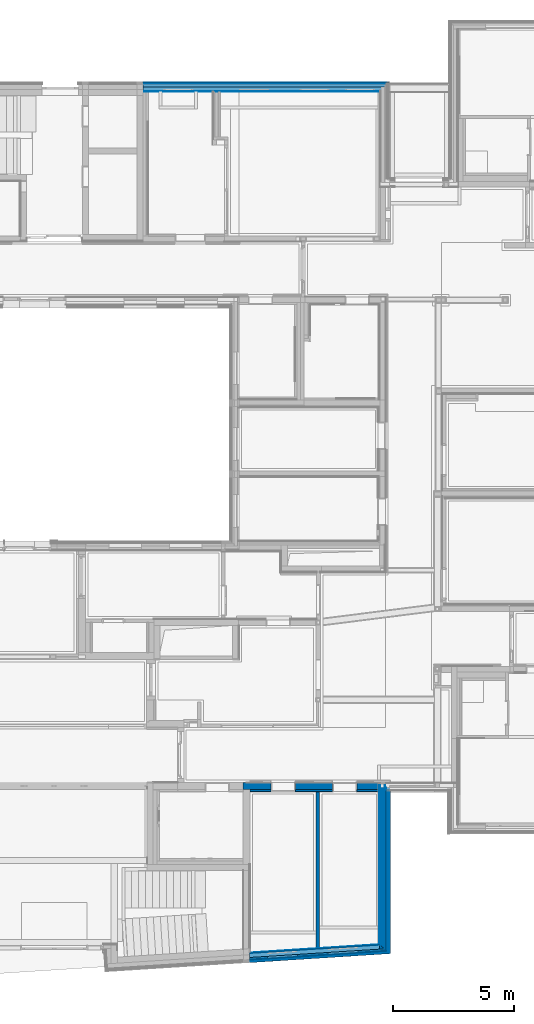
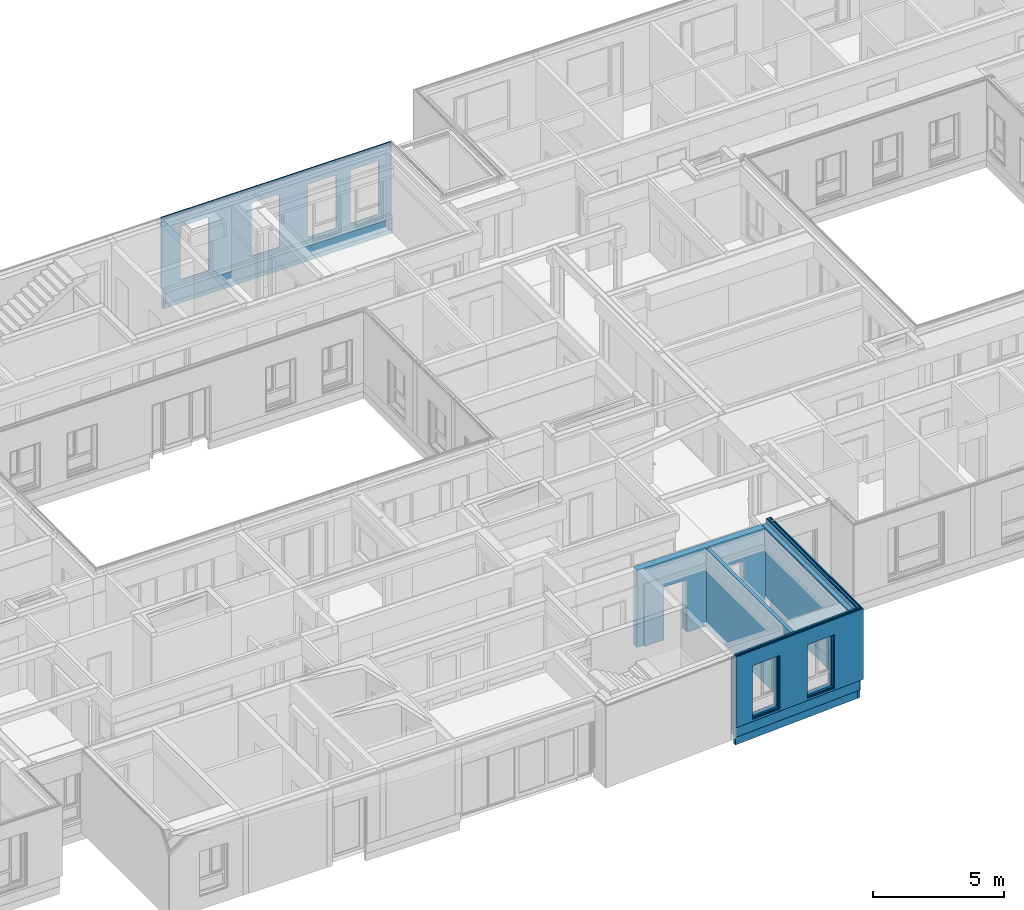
# One storey, part 42 of 207: 31 walls, 26 openings.
"""IFC4 building model written with IfcOpenShell, lengths in metres."""

from ifc_helpers import new_model, entity, si_unit, converted_unit, derived_unit, frame, frame_2d, origin, origin_with_axes, place, context, subcontext, project, spatial, polyline, rectangle, outline, extrude, clip, bounded_halfspace, material, element, save


model = new_model("IFC4")

# Units and contexts
model_context = context("Model", 3, precision=1e-05, world=origin())
body_context = subcontext(model_context, "Body", "Model", "MODEL_VIEW")
ifc_project = project(units=[si_unit("LENGTHUNIT", "METRE"), si_unit("AREAUNIT", "SQUARE_METRE"), si_unit("VOLUMEUNIT", "CUBIC_METRE"), si_unit("MASSUNIT", "GRAM", prefix="KILO"), converted_unit("PLANEANGLEUNIT", "DEGREE", entity("IfcPlaneAngleMeasure", 0.0174532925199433), si_unit("PLANEANGLEUNIT", "RADIAN"), dimensions=[0, 0, 0, 0, 0, 0, 0]), derived_unit("THERMALTRANSMITTANCEUNIT", [(si_unit("POWERUNIT", "WATT"), 1), (si_unit("THERMODYNAMICTEMPERATUREUNIT", "KELVIN"), -1), (si_unit("LENGTHUNIT", "METRE"), -2)]), derived_unit("VOLUMETRICFLOWRATEUNIT", [(si_unit("LENGTHUNIT", "METRE"), 3), (converted_unit("TIMEUNIT", "hour", entity("IfcTimeMeasure", 3600.0), si_unit("TIMEUNIT", "SECOND"), dimensions=[0, 0, 1, 0, 0, 0, 0]), -1), (si_unit("LENGTHUNIT", "METRE"), -1)])], contexts=[model_context])

# Site, building, storey
site_placement = place(None, origin())
site = spatial("IfcSite", under=ifc_project, at=site_placement, Name="Psychiatrie Neubau Wunstorf", CompositionType="ELEMENT")
building_placement = place(site_placement, origin())
building = spatial("IfcBuilding", under=site, at=building_placement, Name="Neubau H2 Stationsgebäude", CompositionType="ELEMENT")
storey_placement = place(building_placement, frame((0.0, 0.0, -0.2)))
storey = spatial("IfcBuildingStorey", under=building, at=storey_placement, Name="H2 Ebene 0", CompositionType="ELEMENT", Elevation=-0.2)

# Wall, openings
ifc_material_1 = material(Name="WA-LB")
wall_1_placement = place(storey_placement, frame((67.8525, -6.14011590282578, 0.5), z_axis=(0.0, 0.0, 1.0), x_axis=(-0.99794432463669, -0.0640868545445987, 0.0)))
wall_1 = element("IfcWall", 1, at=wall_1_placement, inside=storey, material=ifc_material_1, context=body_context, shape_type="SweptSolid", body=[
    extrude(outline(polyline([(-5.36582681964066, -0.0359999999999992), (-0.00231187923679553, -0.0359999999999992), (0.0, 0.0), (-5.40497329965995, 0.0), (-5.36582681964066, -0.0359999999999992)])), frame((5.36582681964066, 0.0359999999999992, 0.0), z_axis=(0.0, 0.0, 1.0), x_axis=(1.0, 0.0, 0.0)), (0.0, 0.0, 1.0), 3.1),
])
opening_1_placement = place(wall_1_placement, frame((4.64269776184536, 0.035999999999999, 0.1), z_axis=(-2.52637417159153e-14, -1.0, 0.0), x_axis=(0.0, 0.0, 1.0)))
element("IfcOpeningElement", 2, at=opening_1_placement, cuts=wall_1, Name="Fensteröffnung", ObjectType="Opening", context=body_context, shape_type="SweptSolid", body=[
    extrude(outline(polyline([(2.5, 1.24999999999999), (2.5, 0.0), (0.0, 0.0), (0.0, 1.24999999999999), (2.5, 1.24999999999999)])), origin_with_axes(), (0.0, 0.0, 1.0), 0.0359999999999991),
])
opening_2_placement = place(wall_1_placement, frame((2.1362370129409, 0.0360000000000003, 0.1), z_axis=(1.64214321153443e-13, -1.0, 0.0), x_axis=(0.0, 0.0, 1.0)))
element("IfcOpeningElement", 3, at=opening_2_placement, cuts=wall_1, Name="Fensteröffnung", ObjectType="Opening", context=body_context, shape_type="SweptSolid", body=[
    extrude(outline(polyline([(2.5, 1.24999999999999), (2.5, 0.0), (0.0, 0.0), (0.0, 1.24999999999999), (2.5, 1.24999999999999)])), origin_with_axes(), (0.0, 0.0, 1.0), 0.0360000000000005),
])

ifc_material_2 = material(Name="WA-HD")
wall_2_placement = place(storey_placement, frame((67.8938731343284, -6.17353312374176, 0.5), z_axis=(0.0, 0.0, 1.0), x_axis=(-0.99794432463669, -0.0640868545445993, 0.0)))
wall_2 = element("IfcWall", 4, at=wall_2_placement, inside=storey, material=ifc_material_2, context=body_context, shape_type="SweptSolid", body=[
    extrude(outline(polyline([(-5.41524831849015, -0.159999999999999), (-0.0102750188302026, -0.159999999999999), (0.0, 0.0), (-5.58923267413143, 0.0), (-5.41524831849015, -0.159999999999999)])), frame((5.41524831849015, 0.159999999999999, 0.0), z_axis=(0.0, 0.0, 1.0), x_axis=(1.0, 0.0, 0.0)), (0.0, 0.0, 1.0), 3.1),
])
opening_3_placement = place(wall_2_placement, frame((4.68184424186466, 0.159999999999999, 0.1), z_axis=(2.84217094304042e-14, -1.0, 0.0), x_axis=(0.0, 0.0, 1.0)))
element("IfcOpeningElement", 5, at=opening_3_placement, cuts=wall_2, Name="Fensteröffnung", ObjectType="Opening", context=body_context, shape_type="SweptSolid", body=[
    extrude(outline(polyline([(2.5, 1.25000000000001), (2.5, 0.0), (0.0, 0.0), (0.0, 1.25000000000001), (2.5, 1.25000000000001)])), origin_with_axes(), (0.0, 0.0, 1.0), 0.159999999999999),
])
opening_4_placement = place(wall_2_placement, frame((2.1753834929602, 0.159999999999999, 0.1), z_axis=(2.27373675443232e-14, -1.0, 0.0), x_axis=(0.0, 0.0, 1.0)))
element("IfcOpeningElement", 6, at=opening_4_placement, cuts=wall_2, Name="Fensteröffnung", ObjectType="Opening", context=body_context, shape_type="SweptSolid", body=[
    extrude(outline(polyline([(2.5, 1.25000000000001), (2.5, 0.0), (0.0, 0.0), (0.0, 1.25000000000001), (2.5, 1.25000000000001)])), origin_with_axes(), (0.0, 0.0, 1.0), 0.16),
])

ifc_material_3 = material(Name="WA-DL")
wall_3_placement = place(storey_placement, frame((68.0777537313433, -6.32205410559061, 0.5), z_axis=(0.0, 0.0, 1.0), x_axis=(-0.99794432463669, -0.0640868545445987, 0.0)))
wall_3 = element("IfcWall", 7, at=wall_3_placement, inside=storey, material=ifc_material_3, context=body_context, shape_type="SweptSolid", body=[
    extrude(outline(polyline([(-5.59437018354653, -0.0799999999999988), (-0.00513750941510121, -0.0799999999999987), (0.0, 0.0), (-5.68136236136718, 0.0), (-5.59437018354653, -0.0799999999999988)])), frame((5.59437018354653, 0.0799999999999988, 0.0), z_axis=(0.0, 0.0, 1.0), x_axis=(1.0, 0.0, 0.0)), (0.0, 0.0, 1.0), 3.3),
])
opening_5_placement = place(wall_3_placement, frame((4.85582859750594, 0.0799999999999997, 0.1), z_axis=(2.27373675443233e-14, -1.0, 0.0), x_axis=(0.0, 0.0, 1.0)))
element("IfcOpeningElement", 8, at=opening_5_placement, cuts=wall_3, Name="Fensteröffnung", ObjectType="Opening", context=body_context, shape_type="SweptSolid", body=[
    extrude(outline(polyline([(2.5, 1.25000000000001), (2.5, 0.0), (0.0, 0.0), (0.0, 1.25000000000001), (2.5, 1.25000000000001)])), origin_with_axes(), (0.0, 0.0, 1.0), 0.0799999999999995),
])
opening_6_placement = place(wall_3_placement, frame((2.34936784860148, 0.0800000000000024, 0.1), z_axis=(1.70530256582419e-14, -1.0, 0.0), x_axis=(0.0, 0.0, 1.0)))
element("IfcOpeningElement", 9, at=opening_6_placement, cuts=wall_3, Name="Fensteröffnung", ObjectType="Opening", context=body_context, shape_type="SweptSolid", body=[
    extrude(outline(polyline([(2.5, 1.25000000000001), (2.5, 0.0), (0.0, 0.0), (0.0, 1.25000000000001), (2.5, 1.25000000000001)])), origin_with_axes(), (0.0, 0.0, 1.0), 0.0800000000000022),
])

ifc_material_4 = material(Name="WA-TP")
wall_4_placement = place(storey_placement, frame((68.1696940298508, -6.39631459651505, 0.5), z_axis=(0.0, 0.0, 1.0), x_axis=(-0.99794432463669, -0.0640868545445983, 0.0)))
wall_4 = element("IfcWall", 10, at=wall_4_placement, inside=storey, material=ifc_material_4, context=body_context, shape_type="SweptSolid", body=[
    extrude(outline(polyline([(-5.68367424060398, -0.036000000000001), (-0.00231187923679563, -0.036000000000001), (0.0, 0.0), (-5.72282072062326, 0.0), (-5.68367424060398, -0.036000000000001)])), frame((5.68367424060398, 0.036000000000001, 0.0), z_axis=(0.0, 0.0, 1.0), x_axis=(1.0, 0.0, 0.0)), (0.0, 0.0, 1.0), 3.3),
])
opening_7_placement = place(wall_4_placement, frame((4.94282077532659, 0.0360000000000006, 0.1), z_axis=(-5.0527483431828e-14, -1.0, 0.0), x_axis=(0.0, 0.0, 1.0)))
element("IfcOpeningElement", 11, at=opening_7_placement, cuts=wall_4, Name="Fensteröffnung", ObjectType="Opening", context=body_context, shape_type="SweptSolid", body=[
    extrude(outline(polyline([(2.5, 1.25000000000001), (2.5, 0.0), (0.0, 0.0), (0.0, 1.25000000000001), (2.5, 1.25000000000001)])), origin_with_axes(), (0.0, 0.0, 1.0), 0.0360000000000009),
])
opening_8_placement = place(wall_4_placement, frame((2.43636002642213, 0.0359999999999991, 0.1), z_axis=(1.76846192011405e-13, -1.0, 0.0), x_axis=(0.0, 0.0, 1.0)))
element("IfcOpeningElement", 12, at=opening_8_placement, cuts=wall_4, Name="Fensteröffnung", ObjectType="Opening", context=body_context, shape_type="SweptSolid", body=[
    extrude(outline(polyline([(2.5, 1.25000000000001), (2.5, 0.0), (0.0, 0.0), (0.0, 1.25000000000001), (2.5, 1.25000000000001)])), origin_with_axes(), (0.0, 0.0, 1.0), 0.0359999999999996),
])

ifc_material_5 = material(Name="WA-KL")
wall_5_placement = place(storey_placement, frame((68.2110671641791, -6.42973181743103, 0.5), z_axis=(0.0, 0.0, 1.0), x_axis=(-0.99794432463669, -0.0640868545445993, 0.0)))
wall_5 = element("IfcWall", 13, at=wall_5_placement, inside=storey, material=ifc_material_5, context=body_context, shape_type="SweptSolid", body=[
    extrude(outline(polyline([(-5.7243619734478, -0.0239999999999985), (-0.00154125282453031, -0.0239999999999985), (0.0, 0.0), (-5.75045962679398, 0.0), (-5.7243619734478, -0.0239999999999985)])), frame((5.7243619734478, 0.0239999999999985, 0.0), z_axis=(0.0, 0.0, 1.0), x_axis=(1.0, 0.0, 0.0)), (0.0, 0.0, 1.0), 3.3),
])
opening_9_placement = place(wall_5_placement, frame((4.98196725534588, 0.0239999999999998, 0.1), z_axis=(-3.7895612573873e-14, -1.0, 0.0), x_axis=(0.0, 0.0, 1.0)))
element("IfcOpeningElement", 14, at=opening_9_placement, cuts=wall_5, Name="Fensteröffnung", ObjectType="Opening", context=body_context, shape_type="SweptSolid", body=[
    extrude(outline(polyline([(2.5, 1.25), (2.5, 0.0), (0.0, 0.0), (0.0, 1.25), (2.5, 1.25)])), origin_with_axes(), (0.0, 0.0, 1.0), 0.0239999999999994),
])
opening_10_placement = place(wall_5_placement, frame((2.47550650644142, 0.0240000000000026, 0.1), z_axis=(-7.57912251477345e-14, -1.0, 0.0), x_axis=(0.0, 0.0, 1.0)))
element("IfcOpeningElement", 15, at=opening_10_placement, cuts=wall_5, Name="Fensteröffnung", ObjectType="Opening", context=body_context, shape_type="SweptSolid", body=[
    extrude(outline(polyline([(2.5, 1.25000000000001), (2.5, 0.0), (0.0, 0.0), (0.0, 1.25000000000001), (2.5, 1.25000000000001)])), origin_with_axes(), (0.0, 0.0, 1.0), 0.024000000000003),
])

ifc_material_6 = material(Name="WA-TL")
wall_6_placement = place(storey_placement, frame((68.2386492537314, -6.45200996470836, 0.5), z_axis=(0.0, 0.0, 1.0), x_axis=(-0.99794432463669, -0.0640868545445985, 0.0)))
wall_6 = element("IfcWall", 16, at=wall_6_placement, inside=storey, material=ifc_material_6, context=body_context, shape_type="SweptSolid", body=[
    extrude(outline(polyline([(-5.75200087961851, -0.0239999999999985), (-0.00154125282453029, -0.0239999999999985), (0.0, 0.0), (-5.7780985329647, 0.0), (-5.75200087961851, -0.0239999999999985)])), frame((5.75200087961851, 0.0239999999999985, 0.0), z_axis=(0.0, 0.0, 1.0), x_axis=(1.0, 0.0, 0.0)), (0.0, 0.0, 1.0), 3.3),
])
opening_11_placement = place(wall_6_placement, frame((5.00806490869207, 0.0239999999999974, 0.1), z_axis=(0.0, -1.0, 0.0), x_axis=(0.0, 0.0, 1.0)))
element("IfcOpeningElement", 17, at=opening_11_placement, cuts=wall_6, Name="Fensteröffnung", ObjectType="Opening", context=body_context, shape_type="SweptSolid", body=[
    extrude(outline(polyline([(2.5, 1.25), (2.5, 0.0), (0.0, 0.0), (0.0, 1.25), (2.5, 1.25)])), origin_with_axes(), (0.0, 0.0, 1.0), 0.0239999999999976),
])
opening_12_placement = place(wall_6_placement, frame((2.5016041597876, 0.0239999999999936, 0.1), z_axis=(-1.89478062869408e-14, -1.0, 0.0), x_axis=(0.0, 0.0, 1.0)))
element("IfcOpeningElement", 18, at=opening_12_placement, cuts=wall_6, Name="Fensteröffnung", ObjectType="Opening", context=body_context, shape_type="SweptSolid", body=[
    extrude(outline(polyline([(2.5, 1.24999999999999), (2.5, 0.0), (0.0, 0.0), (0.0, 1.24999999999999), (2.5, 1.24999999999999)])), origin_with_axes(), (0.0, 0.0, 1.0), 0.023999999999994),
])

ifc_material_7 = material(Name="WA-HS")
wall_7_placement = place(storey_placement, frame((68.2662313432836, -6.47428811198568, 0.5), z_axis=(0.0, 0.0, 1.0), x_axis=(-0.99794432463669, -0.0640868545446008, 0.0)))
wall_7 = element("IfcWall", 19, at=wall_7_placement, inside=storey, material=ifc_material_7, context=body_context, shape_type="SweptSolid", body=[
    extrude(outline(polyline([(-5.78079572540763, -0.0419999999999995), (-0.00269719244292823, -0.0419999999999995), (0.0, 0.0), (-5.82646661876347, 0.0), (-5.78079572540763, -0.0419999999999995)])), frame((5.78079572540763, 0.0419999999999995, 0.0), z_axis=(0.0, 0.0, 1.0), x_axis=(1.0, 0.0, 0.0)), (0.0, 0.0, 1.0), 3.3),
])
opening_13_placement = place(wall_7_placement, frame((5.03416256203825, 0.0420000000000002, 0.1), z_axis=(4.3309271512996e-14, -1.0, 0.0), x_axis=(0.0, 0.0, 1.0)))
element("IfcOpeningElement", 20, at=opening_13_placement, cuts=wall_7, Name="Fensteröffnung", ObjectType="Opening", context=body_context, shape_type="SweptSolid", body=[
    extrude(outline(polyline([(2.5, 1.25000000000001), (2.5, 0.0), (0.0, 0.0), (0.0, 1.25000000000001), (2.5, 1.25000000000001)])), origin_with_axes(), (0.0, 0.0, 1.0), 0.0420000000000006),
])
opening_14_placement = place(wall_7_placement, frame((2.5277018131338, 0.0420000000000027, 0.1), z_axis=(-1.29927814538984e-13, -1.0, 0.0), x_axis=(0.0, 0.0, 1.0)))
element("IfcOpeningElement", 21, at=opening_14_placement, cuts=wall_7, Name="Fensteröffnung", ObjectType="Opening", context=body_context, shape_type="SweptSolid", body=[
    extrude(outline(polyline([(2.5, 1.25000000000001), (2.5, 0.0), (0.0, 0.0), (0.0, 1.25000000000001), (2.5, 1.25000000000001)])), origin_with_axes(), (0.0, 0.0, 1.0), 0.0420000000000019),
])

ifc_material_8 = material(Name="WA-TL")
wall_8_placement = place(storey_placement, frame((58.1, 29.3999996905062, 0.5)))
wall_8 = element("IfcWall", 22, at=wall_8_placement, inside=storey, material=ifc_material_8, context=body_context, shape_type="SweptSolid", body=[
    extrude(rectangle(XDim=10.125, YDim=0.024, at=frame_2d((5.0625, 0.012), x_axis=(1.0, 0.0))), origin_with_axes(), (0.0, 0.0, 1.0), 3.3),
])
opening_15_placement = place(wall_8_placement, frame((9.58750000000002, 0.024, 0.1), z_axis=(0.0, -1.0, 0.0), x_axis=(0.0, 0.0, 1.0)))
element("IfcOpeningElement", 23, at=opening_15_placement, cuts=wall_8, Name="Fensteröffnung", ObjectType="Opening", context=body_context, shape_type="SweptSolid", body=[
    extrude(outline(polyline([(2.5, 1.25), (2.5, 0.0), (0.0, 0.0), (0.0, 1.25), (2.5, 1.25)])), origin_with_axes(), (0.0, 0.0, 1.0), 0.024),
])
opening_16_placement = place(wall_8_placement, frame((5.21250000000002, 0.024, 0.1), z_axis=(0.0, -1.0, 0.0), x_axis=(0.0, 0.0, 1.0)))
element("IfcOpeningElement", 24, at=opening_16_placement, cuts=wall_8, Name="Fensteröffnung", ObjectType="Opening", context=body_context, shape_type="SweptSolid", body=[
    extrude(outline(polyline([(2.5, 1.25), (2.5, 0.0), (0.0, 0.0), (0.0, 1.25), (2.5, 1.25)])), origin_with_axes(), (0.0, 0.0, 1.0), 0.024),
])
opening_17_placement = place(wall_8_placement, frame((2.08750000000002, 0.024, 0.1), z_axis=(0.0, -1.0, 0.0), x_axis=(0.0, 0.0, 1.0)))
element("IfcOpeningElement", 25, at=opening_17_placement, cuts=wall_8, Name="Fensteröffnung", ObjectType="Opening", context=body_context, shape_type="SweptSolid", body=[
    extrude(outline(polyline([(2.5, 1.25), (2.5, 0.0), (0.0, 0.0), (0.0, 1.25), (2.5, 1.25)])), origin_with_axes(), (0.0, 0.0, 1.0), 0.024),
])
opening_18_placement = place(wall_8_placement, frame((7.71250000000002, 0.024, 0.1), z_axis=(0.0, -1.0, 0.0), x_axis=(0.0, 0.0, 1.0)))
element("IfcOpeningElement", 26, at=opening_18_placement, cuts=wall_8, Name="Fensteröffnung", ObjectType="Opening", context=body_context, shape_type="SweptSolid", body=[
    extrude(outline(polyline([(2.5, 1.25), (2.5, 0.0), (0.0, 0.0), (0.0, 1.25), (2.5, 1.25)])), origin_with_axes(), (0.0, 0.0, 1.0), 0.024),
])

ifc_material_9 = material(Name="WA-HS")
wall_9_placement = place(storey_placement, frame((58.1, 29.4239996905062, 0.5)))
wall_9 = element("IfcWall", 27, at=wall_9_placement, inside=storey, material=ifc_material_9, context=body_context, shape_type="SweptSolid", body=[
    extrude(rectangle(XDim=10.149, YDim=0.042, at=frame_2d((5.0745, 0.021), x_axis=(1.0, 0.0))), origin_with_axes(), (0.0, 0.0, 1.0), 3.3),
])
opening_19_placement = place(wall_9_placement, frame((9.58750000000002, 0.042, 0.1), z_axis=(0.0, -1.0, 0.0), x_axis=(0.0, 0.0, 1.0)))
element("IfcOpeningElement", 28, at=opening_19_placement, cuts=wall_9, Name="Fensteröffnung", ObjectType="Opening", context=body_context, shape_type="SweptSolid", body=[
    extrude(outline(polyline([(2.5, 1.25), (2.5, 0.0), (0.0, 0.0), (0.0, 1.25), (2.5, 1.25)])), origin_with_axes(), (0.0, 0.0, 1.0), 0.042),
])
opening_20_placement = place(wall_9_placement, frame((2.08750000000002, 0.042, 0.1), z_axis=(0.0, -1.0, 0.0), x_axis=(0.0, 0.0, 1.0)))
element("IfcOpeningElement", 29, at=opening_20_placement, cuts=wall_9, Name="Fensteröffnung", ObjectType="Opening", context=body_context, shape_type="SweptSolid", body=[
    extrude(outline(polyline([(2.5, 1.25), (2.5, 0.0), (0.0, 0.0), (0.0, 1.25), (2.5, 1.25)])), origin_with_axes(), (0.0, 0.0, 1.0), 0.042),
])
opening_21_placement = place(wall_9_placement, frame((5.21250000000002, 0.042, 0.1), z_axis=(0.0, -1.0, 0.0), x_axis=(0.0, 0.0, 1.0)))
element("IfcOpeningElement", 30, at=opening_21_placement, cuts=wall_9, Name="Fensteröffnung", ObjectType="Opening", context=body_context, shape_type="SweptSolid", body=[
    extrude(outline(polyline([(2.5, 1.25), (2.5, 0.0), (0.0, 0.0), (0.0, 1.25), (2.5, 1.25)])), origin_with_axes(), (0.0, 0.0, 1.0), 0.042),
])
opening_22_placement = place(wall_9_placement, frame((7.71250000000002, 0.042, 0.1), z_axis=(0.0, -1.0, 0.0), x_axis=(0.0, 0.0, 1.0)))
element("IfcOpeningElement", 31, at=opening_22_placement, cuts=wall_9, Name="Fensteröffnung", ObjectType="Opening", context=body_context, shape_type="SweptSolid", body=[
    extrude(outline(polyline([(2.5, 1.25), (2.5, 0.0), (0.0, 0.0), (0.0, 1.25), (2.5, 1.25)])), origin_with_axes(), (0.0, 0.0, 1.0), 0.042),
])

# Walls
ifc_material_10 = material(Name="WA-LB")
wall_10_placement = place(storey_placement, frame((67.8525, 0.536002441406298, 0.5), z_axis=(0.0, 0.0, 1.0), x_axis=(0.0, -1.0, 0.0)))
element("IfcWall", 32, at=wall_10_placement, inside=storey, material=ifc_material_10, context=body_context, shape_type="SweptSolid", body=[
    extrude(outline(polyline([(-6.70519566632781, 0.0), (-0.0290773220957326, 0.0), (0.0, 0.036), (-6.70519566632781, 0.036), (-6.70519566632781, 0.0)])), frame((6.70519566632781, 0.0, 0.0), z_axis=(0.0, 0.0, 1.0), x_axis=(1.0, 0.0, 0.0)), (0.0, 0.0, 1.0), 3.1),
])
ifc_material_11 = material(Name="WA-LB")
wall_11_placement = place(storey_placement, frame((67.8885, 0.500002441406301, 0.5), z_axis=(0.0, 0.0, 1.0), x_axis=(0.0, -1.0, 0.0)))
element("IfcWall", 33, at=wall_11_placement, inside=storey, material=ifc_material_11, context=body_context, shape_type="SweptSolid", body=[
    extrude(outline(polyline([(-6.68454203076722, 0.0), (-0.0153463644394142, 0.0), (0.0, 0.019), (-6.68454203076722, 0.019), (-6.68454203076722, 0.0)])), frame((6.68454203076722, 0.0, 0.0), z_axis=(0.0, 0.0, 1.0), x_axis=(1.0, 0.0, 0.0)), (0.0, 0.0, 1.0), 3.1),
])
ifc_material_12 = material(Name="WA-HD")
wall_12_placement = place(storey_placement, frame((67.9075, 0.500002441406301, 0.5), z_axis=(0.0, 0.0, 1.0), x_axis=(0.0, -1.0, 0.0)))
element("IfcWall", 34, at=wall_12_placement, inside=storey, material=ifc_material_12, context=body_context, shape_type="SweptSolid", body=[
    extrude(outline(polyline([(-6.82992864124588, 0.0), (-0.145386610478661, 0.0), (0.0, 0.18), (-6.82992864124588, 0.18), (-6.82992864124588, 0.0)])), frame((6.82992864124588, 0.0, 0.0), z_axis=(0.0, 0.0, 1.0), x_axis=(1.0, 0.0, 0.0)), (0.0, 0.0, 1.0), 3.1),
])
ifc_material_13 = material(Name="WA-LB")
wall_13_placement = place(storey_placement, frame((68.0875, 0.536002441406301, 0.5), z_axis=(0.0, 0.0, 1.0), x_axis=(0.0, -1.0, 0.0)))
element("IfcWall", 35, at=wall_13_placement, inside=storey, material=ifc_material_13, context=body_context, shape_type="SweptSolid", body=[
    extrude(outline(polyline([(-6.8812750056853, 0.0), (-0.0153463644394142, 0.0), (0.0, 0.019), (-6.8812750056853, 0.019), (-6.8812750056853, 0.0)])), frame((6.8812750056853, 0.0, 0.0), z_axis=(0.0, 0.0, 1.0), x_axis=(1.0, 0.0, 0.0)), (0.0, 0.0, 1.0), 3.3),
])
ifc_material_14 = material(Name="WA-TP")
wall_14_placement = place(storey_placement, frame((68.1065, 0.536002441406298, 0.5), z_axis=(0.0, 0.0, 1.0), x_axis=(0.0, -1.0, 0.0)))
element("IfcWall", 36, at=wall_14_placement, inside=storey, material=ifc_material_14, context=body_context, shape_type="Clipping", body=[
    clip(extrude(outline(polyline([(-6.91035232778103, 0.0), (-0.0290773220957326, 0.0), (0.0, 0.036), (-6.91035232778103, 0.036), (-6.91035232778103, 0.0)])), frame((6.91035232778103, 0.0, 0.0), z_axis=(0.0, 0.0, 1.0), x_axis=(1.0, 0.0, 0.0)), (0.0, 0.0, 1.0), 3.3), bounded_halfspace(frame((0.10425, 0.018, 3.1), z_axis=(1.0905212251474e-15, -6.31593542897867e-15, 1.0), x_axis=(0.0, -1.0, -1.26318708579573e-14)), True, origin_with_axes(), polyline([(0.0, 0.036), (0.0, 0.0), (0.2085, 0.0), (0.2085, 0.036), (0.0, 0.036)]))),
])
ifc_material_15 = material(Name="WA-DL")
wall_15_placement = place(storey_placement, frame((68.1425, 0.536002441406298, 0.5), z_axis=(0.0, 0.0, 1.0), x_axis=(0.0, -1.0, 0.0)))
element("IfcWall", 37, at=wall_15_placement, inside=storey, material=ifc_material_15, context=body_context, shape_type="Clipping", body=[
    clip(extrude(outline(polyline([(-6.68646910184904, 0.0), (-0.0646162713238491, 0.0), (0.0, 0.08), (-6.68646910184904, 0.08), (-6.68646910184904, 0.0)])), frame((6.97496859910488, 0.0, 0.0), z_axis=(0.0, 0.0, 1.0), x_axis=(1.0, 0.0, 0.0)), (0.0, 0.0, 1.0), 3.3), bounded_halfspace(frame((0.10425, 0.04, 3.1), z_axis=(-1.0905212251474e-15, -2.8421709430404e-15, 1.0), x_axis=(0.0, -1.0, 0.0)), True, origin_with_axes(), polyline([(0.0, 0.08), (0.0, 0.0), (0.2085, 0.0), (0.2085, 0.08), (0.0, 0.08)]))),
    clip(extrude(rectangle(XDim=0.2085, YDim=0.08, at=frame_2d((-0.10425, -0.04), x_axis=(-1.0, 0.0))), frame((0.2085, 0.08, 0.0), z_axis=(0.0, 0.0, 1.0), x_axis=(1.0, 0.0, 0.0)), (0.0, 0.0, 1.0), 3.3), bounded_halfspace(frame((0.10425, 0.04, 3.1), z_axis=(-1.0905212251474e-15, -2.8421709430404e-15, 1.0), x_axis=(0.0, -1.0, 0.0)), True, origin_with_axes(), polyline([(0.0, 0.08), (0.0, 0.0), (0.2085, 0.0), (0.2085, 0.08), (0.0, 0.08)]))),
])
ifc_material_16 = material(Name="WA-KL")
wall_16_placement = place(storey_placement, frame((68.2225, 0.536002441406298, 0.5), z_axis=(0.0, 0.0, 1.0), x_axis=(0.0, -1.0, 0.0)))
element("IfcWall", 38, at=wall_16_placement, inside=storey, material=ifc_material_16, context=body_context, shape_type="Clipping", body=[
    clip(extrude(outline(polyline([(-6.70666168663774, 0.0), (-0.0201925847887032, 0.0), (0.0, 0.025), (-6.70666168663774, 0.025), (-6.70666168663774, 0.0)])), frame((6.99516118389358, 0.0, 0.0), z_axis=(0.0, 0.0, 1.0), x_axis=(1.0, 0.0, 0.0)), (0.0, 0.0, 1.0), 3.3), bounded_halfspace(frame((0.10425, 0.0125, 3.1), z_axis=(1.09052122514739e-15, 9.09494701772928e-15, 1.0), x_axis=(1.0, 0.0, -2.18104245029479e-15)), True, origin_with_axes(), polyline([(0.0, 0.0), (0.2085, 0.0), (0.2085, 0.025), (0.0, 0.025), (0.0, 0.0)]))),
    clip(extrude(rectangle(XDim=0.2085, YDim=0.025, at=frame_2d((0.10425, 0.0125), x_axis=(1.0, 0.0))), origin_with_axes(), (0.0, 0.0, 1.0), 3.3), bounded_halfspace(frame((0.10425, 0.0125, 3.1), z_axis=(1.09052122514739e-15, 9.09494701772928e-15, 1.0), x_axis=(1.0, 0.0, -2.18104245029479e-15)), True, origin_with_axes(), polyline([(0.0, 0.0), (0.2085, 0.0), (0.2085, 0.025), (0.0, 0.025), (0.0, 0.0)]))),
])
ifc_material_17 = material(Name="WA-TL")
wall_17_placement = place(storey_placement, frame((68.2475, 0.536002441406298, 0.5), z_axis=(0.0, 0.0, 1.0), x_axis=(0.0, -1.0, 0.0)))
element("IfcWall", 39, at=wall_17_placement, inside=storey, material=ifc_material_17, context=body_context, shape_type="Clipping", body=[
    clip(extrude(outline(polyline([(-6.72685427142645, 0.0), (-0.0201925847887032, 0.0), (0.0, 0.025), (-6.72685427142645, 0.025), (-6.72685427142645, 0.0)])), frame((7.01535376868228, 0.0, 0.0), z_axis=(0.0, 0.0, 1.0), x_axis=(1.0, 0.0, 0.0)), (0.0, 0.0, 1.0), 3.3), bounded_halfspace(frame((0.10425, 0.0125, 3.1), z_axis=(1.0905212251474e-15, -9.09494701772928e-15, 1.0), x_axis=(1.0, 0.0, 0.0)), True, origin_with_axes(), polyline([(0.0, 0.0), (0.2085, 0.0), (0.2085, 0.025), (0.0, 0.025), (0.0, 0.0)]))),
    clip(extrude(rectangle(XDim=0.025, YDim=0.2085, at=frame_2d((0.10425, -0.0125), x_axis=(0.0, -1.0))), frame((0.0, 0.025, 0.0), z_axis=(0.0, 0.0, 1.0), x_axis=(1.0, 0.0, 0.0)), (0.0, 0.0, 1.0), 3.3), bounded_halfspace(frame((0.10425, 0.0125, 3.1), z_axis=(1.0905212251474e-15, -9.09494701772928e-15, 1.0), x_axis=(1.0, 0.0, 0.0)), True, origin_with_axes(), polyline([(0.0, 0.0), (0.2085, 0.0), (0.2085, 0.025), (0.0, 0.025), (0.0, 0.0)]))),
])
ifc_material_18 = material(Name="WA-HS")
wall_18_placement = place(storey_placement, frame((68.2725, 0.536002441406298, 0.5), z_axis=(0.0, 0.0, 1.0), x_axis=(0.0, -1.0, 0.0)))
element("IfcWall", 40, at=wall_18_placement, inside=storey, material=ifc_material_18, context=body_context, shape_type="Clipping", body=[
    clip(extrude(outline(polyline([(-6.76077781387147, 0.0), (-0.0339235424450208, 0.0), (0.0, 0.042), (-6.76077781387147, 0.042), (-6.76077781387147, 0.0)])), frame((7.0492773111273, 0.0, 0.0), z_axis=(0.0, 0.0, 1.0), x_axis=(1.0, 0.0, 0.0)), (0.0, 0.0, 1.0), 3.3), bounded_halfspace(frame((0.10425, 0.021, 3.1), z_axis=(1.0905212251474e-15, 5.41365893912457e-15, 1.0), x_axis=(1.0, 0.0, -2.1810424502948e-15)), True, origin_with_axes(), polyline([(0.0, 0.0), (0.2085, 0.0), (0.2085, 0.042), (0.0, 0.042), (0.0, 0.0)]))),
    clip(extrude(rectangle(XDim=0.2085, YDim=0.042, at=frame_2d((0.10425, 0.021), x_axis=(1.0, 0.0))), origin_with_axes(), (0.0, 0.0, 1.0), 3.3), bounded_halfspace(frame((0.10425, 0.021, 3.1), z_axis=(1.0905212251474e-15, 5.41365893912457e-15, 1.0), x_axis=(1.0, 0.0, -2.1810424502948e-15)), True, origin_with_axes(), polyline([(0.0, 0.0), (0.2085, 0.0), (0.2085, 0.042), (0.0, 0.042), (0.0, 0.0)]))),
])
ifc_material_19 = material(Name="WA-LB")
wall_19_placement = place(storey_placement, frame((58.1, 29.0639996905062, 0.0)))
element("IfcWall", 41, at=wall_19_placement, inside=storey, material=ifc_material_19, context=body_context, shape_type="SweptSolid", body=[
    extrude(rectangle(XDim=9.81000000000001, YDim=0.0210000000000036, at=frame_2d((4.905, 0.0105000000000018), x_axis=(1.0, 0.0))), origin_with_axes(), (0.0, 0.0, 1.0), 0.5),
])
ifc_material_20 = material(Name="WA-STB")
wall_20_placement = place(storey_placement, frame((58.1, 29.0849996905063, 0.0)))
element("IfcWall", 42, at=wall_20_placement, inside=storey, material=ifc_material_20, context=body_context, shape_type="SweptSolid", body=[
    extrude(rectangle(XDim=9.98500000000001, YDim=0.175, at=frame_2d((4.9925, 0.0875), x_axis=(1.0, 0.0))), origin_with_axes(), (0.0, 0.0, 1.0), 0.5),
])
ifc_material_21 = material(Name="WA-DE")
wall_21_placement = place(storey_placement, frame((58.1, 29.2599996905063, -0.36)))
element("IfcWall", 43, at=wall_21_placement, inside=storey, material=ifc_material_21, context=body_context, shape_type="SweptSolid", body=[
    extrude(rectangle(XDim=10.105, YDim=0.12, at=frame_2d((5.0525, 0.06), x_axis=(1.0, 0.0))), origin_with_axes(), (0.0, 0.0, 1.0), 0.86),
])
ifc_material_22 = material(Name="WA-LB")
wall_22_placement = place(storey_placement, frame((58.1, 29.3799996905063, 0.0)))
element("IfcWall", 44, at=wall_22_placement, inside=storey, material=ifc_material_22, context=body_context, shape_type="SweptSolid", body=[
    extrude(rectangle(XDim=10.12, YDim=0.015, at=frame_2d((5.06, 0.0075), x_axis=(1.0, 0.0))), origin_with_axes(), (0.0, 0.0, 1.0), 0.5),
])
ifc_material_23 = material(Name="WA-LB")
wall_23_placement = place(storey_placement, frame((67.829, -6.14162732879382, 0.0), z_axis=(0.0, 0.0, 1.0), x_axis=(-0.997944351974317, -0.0640864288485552, 0.0)))
element("IfcWall", 45, at=wall_23_placement, inside=storey, material=ifc_material_23, context=body_context, shape_type="SweptSolid", body=[
    extrude(outline(polyline([(-5.34131497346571, -0.0210000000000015), (-0.00134858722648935, -0.0210000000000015), (0.0, 0.0), (-5.33996638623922, 0.0), (-5.34131497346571, -0.0210000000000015)])), frame((5.34131497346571, 0.0210000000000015, 0.0), z_axis=(0.0, 0.0, 1.0), x_axis=(1.0, 0.0, 0.0)), (0.0, 0.0, 1.0), 0.5),
])
ifc_material_24 = material(Name="WA-STB")
wall_24_placement = place(storey_placement, frame((67.865, -6.16035872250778, 0.0), z_axis=(0.0, 0.0, 1.0), x_axis=(-0.997944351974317, -0.0640864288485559, 0.0)))
element("IfcWall", 46, at=wall_24_placement, inside=storey, material=ifc_material_24, context=body_context, shape_type="SweptSolid", body=[
    extrude(outline(polyline([(-5.38727876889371, -0.174999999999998), (-0.0112382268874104, -0.174999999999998), (0.0, 0.0), (-5.3760405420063, 0.0), (-5.38727876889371, -0.174999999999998)])), frame((5.38727876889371, 0.174999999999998, 0.0), z_axis=(0.0, 0.0, 1.0), x_axis=(1.0, 0.0, 0.0)), (0.0, 0.0, 1.0), 0.5),
])
ifc_material_25 = material(Name="WA-DE")
wall_25_placement = place(storey_placement, frame((68.085, -6.32159114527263, -0.36), z_axis=(0.0, 0.0, 1.0), x_axis=(-0.997944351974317, -0.0640864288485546, 0.0)))
element("IfcWall", 47, at=wall_25_placement, inside=storey, material=ifc_material_25, context=body_context, shape_type="SweptSolid", body=[
    extrude(outline(polyline([(-5.60419992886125, -0.12), (-0.00770621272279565, -0.12), (0.0, 0.0), (-5.59649371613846, 0.0), (-5.60419992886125, -0.12)])), frame((5.60419992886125, 0.12, 0.0), z_axis=(0.0, 0.0, 1.0), x_axis=(1.0, 0.0, 0.0)), (0.0, 0.0, 1.0), 0.86),
])
ifc_material_26 = material(Name="WA-LB")
wall_26_placement = place(storey_placement, frame((68.205, -6.43413211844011, 0.0), z_axis=(0.0, 0.0, 1.0), x_axis=(-0.997944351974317, -0.0640864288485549, 0.0)))
element("IfcWall", 48, at=wall_26_placement, inside=storey, material=ifc_material_26, context=body_context, shape_type="SweptSolid", body=[
    extrude(outline(polyline([(-5.71770417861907, -0.0149999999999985), (-0.000963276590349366, -0.0149999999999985), (0.0, 0.0), (-5.71674090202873, 0.0), (-5.71770417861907, -0.0149999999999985)])), frame((5.71770417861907, 0.0149999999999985, 0.0), z_axis=(0.0, 0.0, 1.0), x_axis=(1.0, 0.0, 0.0)), (0.0, 0.0, 1.0), 0.5),
])
ifc_material_27 = material(Name="WA-DE")
wall_27_placement = place(storey_placement, frame((68.085, 0.220002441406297, -0.36), z_axis=(0.0, 0.0, 1.0), x_axis=(0.0, -1.0, 0.0)))
element("IfcWall", 49, at=wall_27_placement, inside=storey, material=ifc_material_27, context=body_context, shape_type="SweptSolid", body=[
    extrude(outline(polyline([(-6.6618407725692, 0.0), (0.0, 0.0), (-0.0077062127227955, 0.12), (-6.6618407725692, 0.12), (-6.6618407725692, 0.0)])), frame((6.6618407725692, 0.0, 0.0), z_axis=(0.0, 0.0, 1.0), x_axis=(1.0, 0.0, 0.0)), (0.0, 0.0, 1.0), 0.86),
])
ifc_material_28 = material(Name="WA-LB")
wall_28_placement = place(storey_placement, frame((68.205, 0.205002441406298, 0.0), z_axis=(0.0, 0.0, 1.0), x_axis=(0.0, -1.0, 0.0)))
element("IfcWall", 50, at=wall_28_placement, inside=storey, material=ifc_material_28, context=body_context, shape_type="SweptSolid", body=[
    extrude(outline(polyline([(-6.65416545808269, 0.0), (0.0, 0.0), (-0.000963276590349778, 0.015), (-6.65416545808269, 0.015), (-6.65416545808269, 0.0)])), frame((6.65416545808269, 0.0, 0.0), z_axis=(0.0, 0.0, 1.0), x_axis=(1.0, 0.0, 0.0)), (0.0, 0.0, 1.0), 0.5),
])
ifc_material_29 = material(Name="WI-LB")
wall_29_placement = place(storey_placement, frame((65.4, -6.29761267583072, 0.0), z_axis=(0.0, 0.0, 1.0), x_axis=(0.0, 1.0, 0.0)))
element("IfcWall", 51, at=wall_29_placement, inside=storey, material=ifc_material_29, context=body_context, shape_type="SweptSolid", body=[
    extrude(outline(polyline([(0.00963283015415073, -0.15), (6.47824794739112, -0.15), (6.47824794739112, 0.0), (0.0, 0.0), (0.00963283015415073, -0.15)])), frame((-0.00963283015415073, 0.15, 0.0), z_axis=(0.0, 0.0, 1.0), x_axis=(1.0, 0.0, 0.0)), (0.0, 0.0, 1.0), 3.6),
])

# Wall, openings
ifc_material_30 = material(Name="WI-HW 60")
wall_30_placement = place(storey_placement, frame((67.8525, 0.536002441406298, 0.0), z_axis=(0.0, 0.0, 1.0), x_axis=(-1.0, 0.0, 0.0)))
wall_30 = element("IfcWall", 52, at=wall_30_placement, inside=storey, material=ifc_material_30, context=body_context, shape_type="SweptSolid", body=[
    extrude(rectangle(XDim=5.61270635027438, YDim=0.29, at=frame_2d((2.80635317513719, 0.145), x_axis=(1.0, 0.0))), origin_with_axes(), (0.0, 0.0, 1.0), 3.6),
])
opening_23_placement = place(wall_30_placement, frame((1.9275, 0.29, 0.0), z_axis=(0.0, -1.0, 0.0), x_axis=(0.0, 0.0, 1.0)))
element("IfcOpeningElement", 53, at=opening_23_placement, cuts=wall_30, Name="Türöffnung", ObjectType="Opening", context=body_context, shape_type="SweptSolid", body=[
    extrude(outline(polyline([(2.46, 1.01), (2.46, 0.0), (0.0, 0.0), (0.0, 1.01), (2.46, 1.01)])), origin_with_axes(), (0.0, 0.0, 1.0), 0.29),
])
opening_24_placement = place(wall_30_placement, frame((3.45827442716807, 0.0, 0.0), z_axis=(0.0, 1.0, 0.0), x_axis=(0.0, 0.0, 1.0)))
element("IfcOpeningElement", 54, at=opening_24_placement, cuts=wall_30, Name="Türöffnung", ObjectType="Opening", context=body_context, shape_type="SweptSolid", body=[
    extrude(outline(polyline([(2.46, 1.01), (2.46, 0.0), (0.0, 0.0), (0.0, 1.01), (2.46, 1.01)])), origin_with_axes(), (0.0, 0.0, 1.0), 0.29),
])

ifc_material_31 = material(Name="WI-LB")
wall_31_placement = place(storey_placement, frame((67.8525, 0.246002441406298, 0.0), z_axis=(0.0, 0.0, 1.0), x_axis=(-1.0, 0.0, 0.0)))
wall_31 = element("IfcWall", 55, at=wall_31_placement, inside=storey, material=ifc_material_31, context=body_context, shape_type="SweptSolid", body=[
    extrude(rectangle(XDim=5.32270635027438, YDim=0.075, at=frame_2d((2.66135317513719, 0.0375), x_axis=(1.0, 0.0))), origin_with_axes(), (0.0, 0.0, 1.0), 2.9),
])
opening_25_placement = place(wall_31_placement, frame((1.9275, 0.075, 0.0), z_axis=(0.0, -1.0, 0.0), x_axis=(0.0, 0.0, 1.0)))
element("IfcOpeningElement", 56, at=opening_25_placement, cuts=wall_31, Name="Türöffnung", ObjectType="Opening", context=body_context, shape_type="SweptSolid", body=[
    extrude(outline(polyline([(2.46, 1.01), (2.46, 0.0), (0.0, 0.0), (0.0, 1.01), (2.46, 1.01)])), origin_with_axes(), (0.0, 0.0, 1.0), 0.075),
])
opening_26_placement = place(wall_31_placement, frame((3.45827442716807, 0.0, 0.0), z_axis=(0.0, 1.0, 0.0), x_axis=(0.0, 0.0, 1.0)))
element("IfcOpeningElement", 57, at=opening_26_placement, cuts=wall_31, Name="Türöffnung", ObjectType="Opening", context=body_context, shape_type="SweptSolid", body=[
    extrude(outline(polyline([(2.46, 1.01), (2.46, 0.0), (0.0, 0.0), (0.0, 1.01), (2.46, 1.01)])), origin_with_axes(), (0.0, 0.0, 1.0), 0.075),
])

save(model, "model.ifc")
